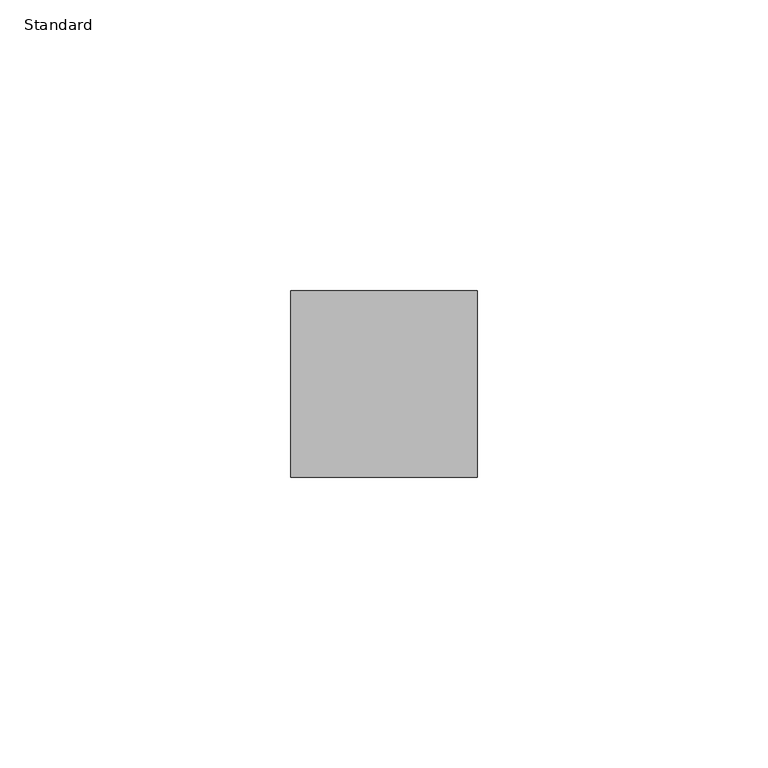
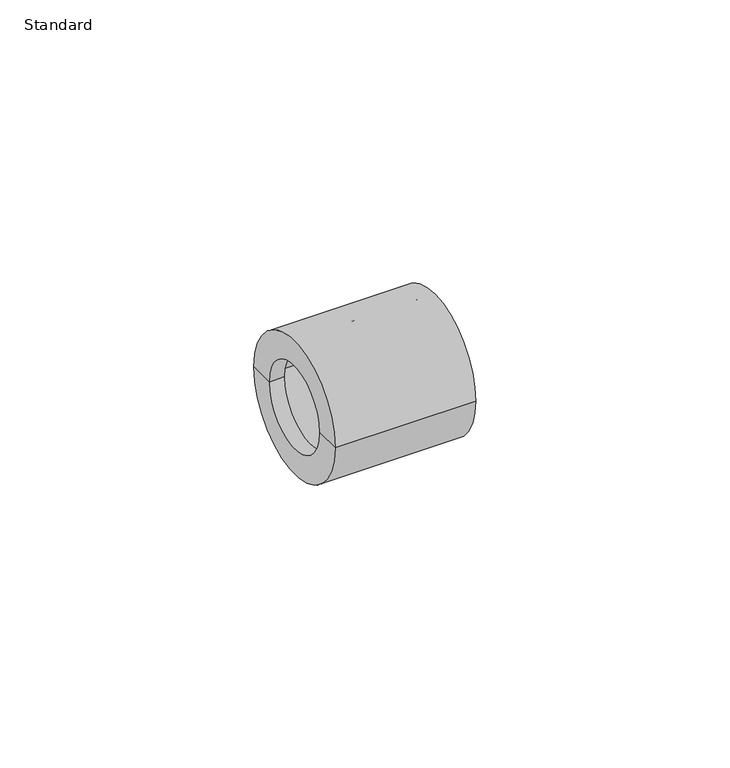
"""IFC4 building model written with IfcOpenShell, lengths in millimetres: pipe fitting geometry, Durapipe_PipeFitting_PVC_ReducingBush : Standard."""

from ifc_helpers import new_model, si_unit, frame, origin, place, context, project, spatial, polyline, circle_curve, source, transform, mapped, element, save
from ifc_brep_helpers import plane_surface, cylinder_surface, revolved_surface, advanced_brep


def standard_f76fbd2c(model_context):
    return source(origin(), model_context, "Body", "AdvancedBrep", [
        advanced_brep(
        [(-3.5, -10.0, 0.0), (-3.5, 10.0, 0.0), (-3.5, 16.0, 0.0), (-3.5, -16.0, 0.0), (0.0, -10.0, 0.0), (0.0, 10.0, 0.0), (0.0, -12.5, 0.0), (0.0, 12.5, 0.0), (28.5, -12.5, 0.0), (28.5, 12.5, 0.0), (28.5, -16.0, 0.0), (28.5, 16.0, 0.0)],
        [
            (0, 1, circle_curve(frame((-3.5, 0.0, 0.0), z_axis=(1.0, 0.0, 0.0), x_axis=(0.0, 1.0, 0.0)), 10.0)),
            (1, 2),
            (2, 3, circle_curve(frame((-3.5, 0.0, 0.0), z_axis=(-1.0, 0.0, 0.0), x_axis=(0.0, 1.0, 0.0)), 16.0)),
            (3, 0),
            (1, 0, circle_curve(frame((-3.5, 0.0, 0.0), z_axis=(1.0, 0.0, 0.0), x_axis=(0.0, 1.0, 0.0)), 10.0)),
            (3, 2, circle_curve(frame((-3.5, 0.0, 0.0), z_axis=(-1.0, 0.0, 0.0), x_axis=(0.0, 1.0, 0.0)), 16.0)),
            (4, 5, circle_curve(frame((0.0, 0.0, 0.0), z_axis=(1.0, 0.0, 0.0), x_axis=(0.0, 1.0, 0.0)), 10.0)),
            (5, 1),
            (0, 4),
            (5, 4, circle_curve(frame((0.0, 0.0, 0.0), z_axis=(1.0, 0.0, 0.0), x_axis=(0.0, 1.0, 0.0)), 10.0)),
            (6, 7, circle_curve(frame((0.0, 0.0, 0.0), z_axis=(1.0, 0.0, 0.0), x_axis=(0.0, 1.0, 0.0)), 12.5)),
            (7, 5),
            (4, 6),
            (7, 6, circle_curve(frame((0.0, 0.0, 0.0), z_axis=(1.0, 0.0, 0.0), x_axis=(0.0, 1.0, 0.0)), 12.5)),
            (8, 9, circle_curve(frame((28.5, 0.0, 0.0), z_axis=(1.0, 0.0, 0.0), x_axis=(0.0, 1.0, 0.0)), 12.5)),
            (9, 7),
            (6, 8),
            (9, 8, circle_curve(frame((28.5, 0.0, 0.0), z_axis=(1.0, 0.0, 0.0), x_axis=(0.0, 1.0, 0.0)), 12.5)),
            (10, 11, circle_curve(frame((28.5, 0.0, 0.0), z_axis=(1.0, 0.0, 0.0), x_axis=(0.0, 1.0, 0.0)), 16.0)),
            (11, 9),
            (8, 10),
            (11, 10, circle_curve(frame((28.5, 0.0, 0.0), z_axis=(1.0, 0.0, 0.0), x_axis=(0.0, 1.0, 0.0)), 16.0)),
            (2, 11),
            (10, 3),
        ],
        [
            plane_surface(frame((-3.5, 0.0, 0.0), z_axis=(-1.0, 0.0, 0.0), x_axis=(0.0, 1.0, 0.0))),
            revolved_surface(polyline([(-3.5, 10.0, 0.0), (0.0, 10.0, 0.0)]), (2014.5, 0.0, 0.0), (-1.0, 0.0, 0.0)),
            plane_surface(frame((0.0, 0.0, 0.0), z_axis=(1.0, 0.0, 0.0), x_axis=(0.0, 1.0, 0.0))),
            revolved_surface(polyline([(0.0, 12.5, 0.0), (28.5, 12.5, 0.0)]), (2014.5, 0.0, 0.0), (-1.0, 0.0, 0.0)),
            plane_surface(frame((28.5, 0.0, 0.0), z_axis=(1.0, 0.0, 0.0), x_axis=(0.0, 1.0, 0.0))),
            cylinder_surface(frame((2014.5, 0.0, 0.0), z_axis=(-1.0, 0.0, 0.0), x_axis=(0.0, 1.0, 0.0)), 16.0),
        ],
        [
            (0, [[1, 2, 3, 4]]),
            (0, [[5, -4, 6, -2]]),
            (1, [[7, 8, -1, 9]]),
            (1, [[10, -9, -5, -8]]),
            (2, [[11, 12, -7, 13]]),
            (2, [[14, -13, -10, -12]]),
            (3, [[15, 16, -11, 17]]),
            (3, [[18, -17, -14, -16]]),
            (4, [[19, 20, -15, 21]]),
            (4, [[22, -21, -18, -20]]),
            (5, [[-3, 23, -19, 24]]),
            (5, [[-6, -24, -22, -23]]),
        ],
    ),
    ])


if __name__ == "__main__":
    model = new_model("IFC4")
    model_context = context("Model", 3, world=origin())
    ifc_project = project(units=[si_unit("LENGTHUNIT", "METRE", prefix="MILLI")], contexts=[model_context])
    site = spatial("IfcSite", under=ifc_project)
    building = spatial("IfcBuilding", under=site)
    placement = place(None, origin())
    standard_shape = standard_f76fbd2c(model_context)
    element("IfcPipeFitting", 1, ObjectType="Durapipe_PipeFitting_PVC_ReducingBush : Standard", at=placement, inside=building, context=model_context, shape_type="MappedRepresentation", body=[
        mapped(standard_shape, transform((0.0, 0.0, 0.0), x_axis=(1.0, 0.0, 0.0), y_axis=(0.0, 1.0, 0.0), z_axis=(0.0, 0.0, 1.0))),
    ])
    save(model, "model.ifc")
